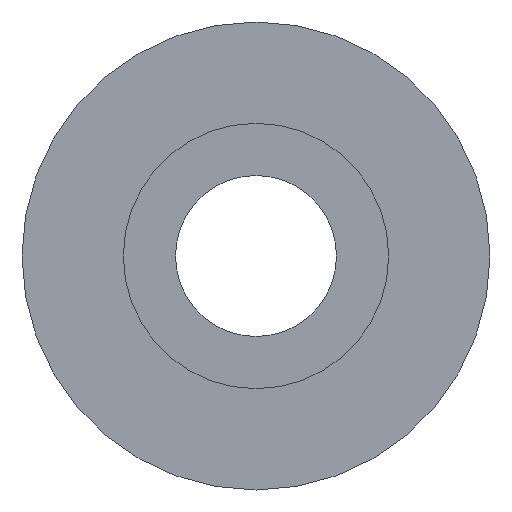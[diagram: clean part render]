
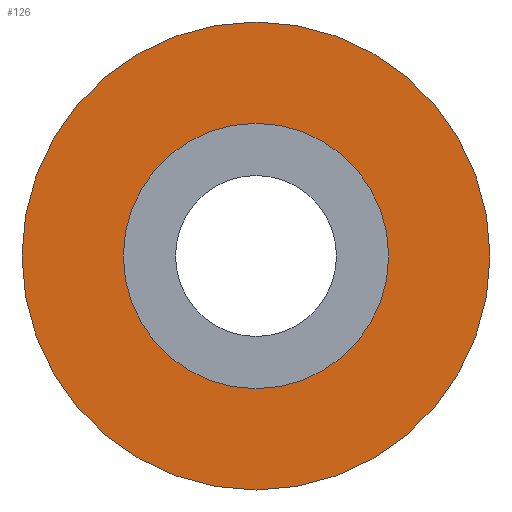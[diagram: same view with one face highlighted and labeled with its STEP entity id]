
A CAD part, left-side view. The second image highlights one B-rep face of the part: STEP entity #126.
In plain terms, the highlighted planar face has unit normal (-1, 0, 0).
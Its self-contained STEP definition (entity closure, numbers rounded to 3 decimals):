
#13=PLANE($,#145);
#26=FACE_BOUND($,#52,.T.);
#40=FACE_OUTER_BOUND($,#51,.T.);
#51=EDGE_LOOP($,(#106));
#52=EDGE_LOOP($,(#107));
#70=CIRCLE($,#143,0.9);
#72=CIRCLE($,#146,1.588);
#81=VERTEX_POINT($,#215);
#83=VERTEX_POINT($,#220);
#92=EDGE_CURVE($,#81,#81,#70,.T.);
#94=EDGE_CURVE($,#83,#83,#72,.T.);
#106=ORIENTED_EDGE($,*,*,#94,.F.);
#107=ORIENTED_EDGE($,*,*,#92,.T.);
#126=ADVANCED_FACE($,(#40,#26),#13,.T.);
#143=AXIS2_PLACEMENT_3D($,#216,#173,#174);
#145=AXIS2_PLACEMENT_3D($,#219,#177,#178);
#146=AXIS2_PLACEMENT_3D($,#221,#179,#180);
#173=DIRECTION('center_axis',(1.,0.,0.));
#174=DIRECTION('ref_axis',(0.,1.,0.));
#177=DIRECTION('center_axis',(-1.,0.,0.));
#178=DIRECTION('ref_axis',(0.,0.,1.));
#179=DIRECTION('center_axis',(1.,0.,0.));
#180=DIRECTION('ref_axis',(0.,1.,0.));
#215=CARTESIAN_POINT('',(3.175,0.9,0.));
#216=CARTESIAN_POINT('Origin',(3.175,0.,0.));
#219=CARTESIAN_POINT('Origin',(3.175,1.244,0.));
#220=CARTESIAN_POINT('',(3.175,1.588,0.));
#221=CARTESIAN_POINT('Origin',(3.175,0.,0.));
